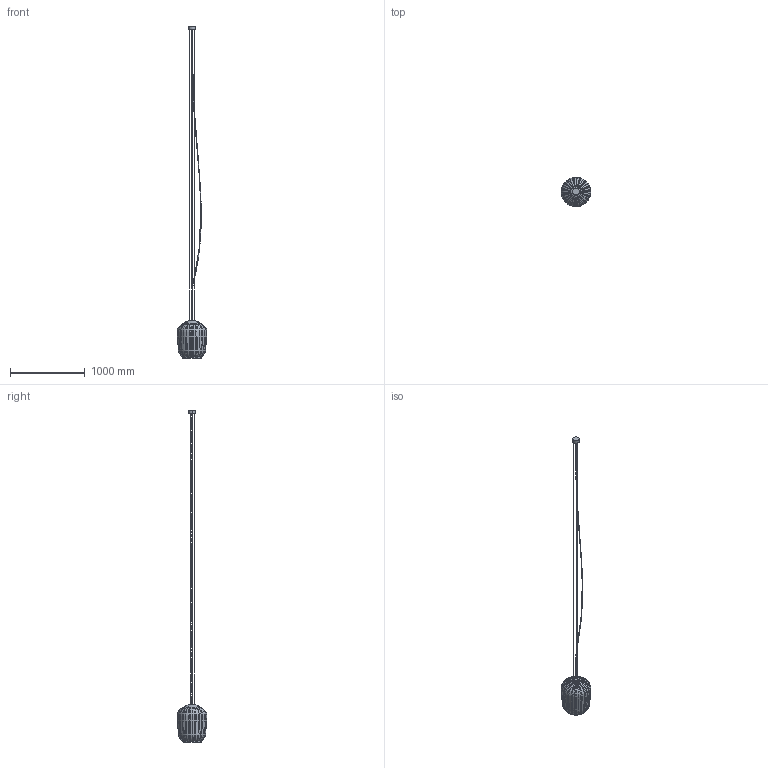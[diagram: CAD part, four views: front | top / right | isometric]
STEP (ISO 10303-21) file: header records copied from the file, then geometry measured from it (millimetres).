
FILE_DESCRIPTION(/* description */ (''),/* implementation_level */ '2;1');
FILE_NAME(/* name */ 'SH_Plissee-Pendant-Lamp_3D_20230810',/* time_stamp */ '2024-01-22T09:18:37+01:00',/* author */ (''),/* organization */ (''),/* preprocessor_version */ 'ST-DEVELOPER v19.2',/* originating_system */ 'Rhino 8.3',/* authorisation */ '');
FILE_SCHEMA (('CONFIG_CONTROL_DESIGN'));
Length unit declared in the file: millimetre
Products named in the file (1): Document
Bounding box: 399.35 x 399.31 x 4451.23 mm (x, y, z)
Volume: 435618.1 mm3; surface area: 835867.7 mm2
Topology: 7 solids, 8 shells, 115 faces, 304 edges, 189 vertices
Faces by surface type: bspline 75, plane 20, cylinder 20
Entity records: 32125 total; most frequent: CARTESIAN_POINT 29911, ORIENTED_EDGE 514, EDGE_CURVE 302, DIRECTION 270, VERTEX_POINT 187, AXIS2_PLACEMENT_3D 155, ADVANCED_FACE 115, FACE_OUTER_BOUND 115
